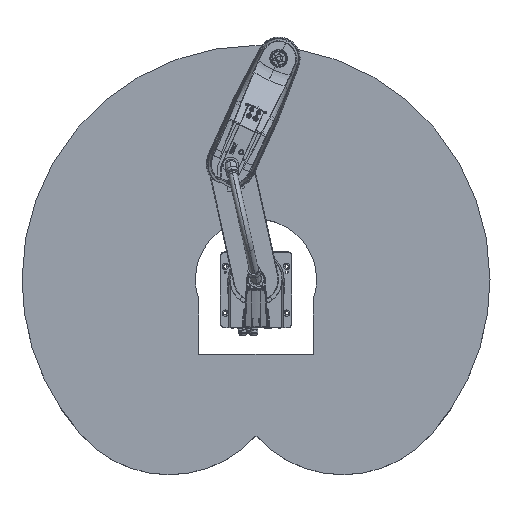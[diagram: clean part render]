
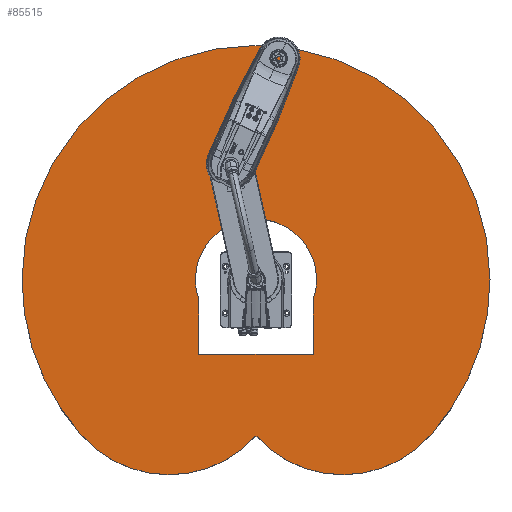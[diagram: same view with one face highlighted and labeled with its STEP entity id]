
A CAD part, top view. The second image highlights one B-rep face of the part: STEP entity #85515.
In plain terms, the highlighted planar face has unit normal (0, 0, 1).
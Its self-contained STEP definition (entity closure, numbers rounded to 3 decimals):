
#2756 = CIRCLE ( 'NONE', #99289, 400. ) ;
#5521 = CARTESIAN_POINT ( 'NONE',  ( 196., -66.752, 208. ) ) ;
#5947 = EDGE_CURVE ( 'NONE', #129084, #13905, #134482, .T. ) ;
#7363 = CARTESIAN_POINT ( 'NONE',  ( 0., 0., 208. ) ) ;
#9161 = EDGE_CURVE ( 'NONE', #82556, #37012, #138296, .T. ) ;
#10996 = AXIS2_PLACEMENT_3D ( 'NONE', #17758, #71777, #103492 ) ;
#13905 = VERTEX_POINT ( 'NONE', #52740 ) ;
#14258 = CARTESIAN_POINT ( 'NONE',  ( -297.258, -267.652, 208. ) ) ;
#16286 = CARTESIAN_POINT ( 'NONE',  ( -196., -255., 208. ) ) ;
#17589 = FACE_OUTER_BOUND ( 'NONE', #72115, .T. ) ;
#17758 = CARTESIAN_POINT ( 'NONE',  ( 0., 0., 208. ) ) ;
#21847 = CIRCLE ( 'NONE', #70116, 800. ) ;
#21938 = EDGE_CURVE ( 'NONE', #39202, #131063, #97030, .T. ) ;
#22844 = LINE ( 'NONE', #120895, #99686 ) ;
#25141 = DIRECTION ( 'NONE',  ( 1., 0., 0. ) ) ;
#25582 = ORIENTED_EDGE ( 'NONE', *, *, #141544, .F. ) ;
#27816 = AXIS2_PLACEMENT_3D ( 'NONE', #112306, #101483, #25141 ) ;
#28503 = ORIENTED_EDGE ( 'NONE', *, *, #9161, .F. ) ;
#29812 = CARTESIAN_POINT ( 'NONE',  ( 0., -267.652, 208. ) ) ;
#30270 = ORIENTED_EDGE ( 'NONE', *, *, #63446, .F. ) ;
#33651 = DIRECTION ( 'NONE',  ( 0., -1., 0. ) ) ;
#34341 = DIRECTION ( 'NONE',  ( 0., 0., 1. ) ) ;
#35224 = AXIS2_PLACEMENT_3D ( 'NONE', #112984, #134621, #66881 ) ;
#35648 = AXIS2_PLACEMENT_3D ( 'NONE', #50067, #114972, #92623 ) ;
#37012 = VERTEX_POINT ( 'NONE', #45276 ) ;
#37042 = EDGE_CURVE ( 'NONE', #116088, #85059, #122700, .T. ) ;
#37374 = CARTESIAN_POINT ( 'NONE',  ( -196., -66.752, 208. ) ) ;
#39202 = VERTEX_POINT ( 'NONE', #111655 ) ;
#39469 = ORIENTED_EDGE ( 'NONE', *, *, #58904, .T. ) ;
#40185 = ORIENTED_EDGE ( 'NONE', *, *, #5947, .T. ) ;
#40599 = DIRECTION ( 'NONE',  ( 0., -1., 0. ) ) ;
#45276 = CARTESIAN_POINT ( 'NONE',  ( 196., -255., 208. ) ) ;
#47587 = EDGE_CURVE ( 'NONE', #133667, #129084, #2756, .T. ) ;
#47971 = AXIS2_PLACEMENT_3D ( 'NONE', #29812, #138605, #40599 ) ;
#48773 = DIRECTION ( 'NONE',  ( 0., 0., 1. ) ) ;
#50067 = CARTESIAN_POINT ( 'NONE',  ( 297.258, -267.652, 208. ) ) ;
#52740 = CARTESIAN_POINT ( 'NONE',  ( 594.516, -535.304, 208. ) ) ;
#58904 = EDGE_CURVE ( 'NONE', #85059, #133667, #116796, .T. ) ;
#60673 = AXIS2_PLACEMENT_3D ( 'NONE', #7363, #75719, #118288 ) ;
#61475 = PLANE ( 'NONE',  #47971 ) ;
#62227 = CIRCLE ( 'NONE', #27816, 207.055 ) ;
#63446 = EDGE_CURVE ( 'NONE', #102515, #39202, #62227, .T. ) ;
#63637 = ORIENTED_EDGE ( 'NONE', *, *, #130092, .F. ) ;
#66881 = DIRECTION ( 'NONE',  ( 1., 0., 0. ) ) ;
#68717 = EDGE_CURVE ( 'NONE', #37012, #73911, #70298, .T. ) ;
#70116 = AXIS2_PLACEMENT_3D ( 'NONE', #111420, #34341, #113538 ) ;
#70298 = LINE ( 'NONE', #5521, #138069 ) ;
#71777 = DIRECTION ( 'NONE',  ( 0., 0., 1. ) ) ;
#72115 = EDGE_LOOP ( 'NONE', ( #40185, #126713, #79116, #39469, #74515 ) ) ;
#73911 = VERTEX_POINT ( 'NONE', #123011 ) ;
#74515 = ORIENTED_EDGE ( 'NONE', *, *, #47587, .T. ) ;
#75719 = DIRECTION ( 'NONE',  ( 0., 0., 1. ) ) ;
#77181 = DIRECTION ( 'NONE',  ( 1., 0., 0. ) ) ;
#79116 = ORIENTED_EDGE ( 'NONE', *, *, #37042, .T. ) ;
#82556 = VERTEX_POINT ( 'NONE', #16286 ) ;
#85059 = VERTEX_POINT ( 'NONE', #110064 ) ;
#85515 = ADVANCED_FACE ( 'NONE', ( #116304, #17589 ), #61475, .F. ) ;
#87660 = EDGE_LOOP ( 'NONE', ( #25582, #114083, #28503, #63637, #122733, #30270 ) ) ;
#87886 = CARTESIAN_POINT ( 'NONE',  ( 0., 0., 208. ) ) ;
#92623 = DIRECTION ( 'NONE',  ( -1., 0., 0. ) ) ;
#93354 = DIRECTION ( 'NONE',  ( 0., 1., 0. ) ) ;
#94505 = EDGE_CURVE ( 'NONE', #13905, #116088, #21847, .T. ) ;
#97030 = CIRCLE ( 'NONE', #131530, 207.055 ) ;
#99289 = AXIS2_PLACEMENT_3D ( 'NONE', #14258, #48773, #77181 ) ;
#99686 = VECTOR ( 'NONE', #33651, 1000. ) ;
#101483 = DIRECTION ( 'NONE',  ( 0., 0., 1. ) ) ;
#102515 = VERTEX_POINT ( 'NONE', #105854 ) ;
#103001 = CARTESIAN_POINT ( 'NONE',  ( -196., -255., 208. ) ) ;
#103492 = DIRECTION ( 'NONE',  ( 1., 0., 0. ) ) ;
#105854 = CARTESIAN_POINT ( 'NONE',  ( 207.055, 0., 208. ) ) ;
#106682 = CIRCLE ( 'NONE', #60673, 207.055 ) ;
#110064 = CARTESIAN_POINT ( 'NONE',  ( -800., 0., 208. ) ) ;
#110200 = DIRECTION ( 'NONE',  ( 1., 0., 0. ) ) ;
#111420 = CARTESIAN_POINT ( 'NONE',  ( 0., 0., 208. ) ) ;
#111655 = CARTESIAN_POINT ( 'NONE',  ( -207.055, 0., 208. ) ) ;
#112306 = CARTESIAN_POINT ( 'NONE',  ( 0., 0., 208. ) ) ;
#112984 = CARTESIAN_POINT ( 'NONE',  ( 0., 0., 208. ) ) ;
#113538 = DIRECTION ( 'NONE',  ( 1., 0., 0. ) ) ;
#114083 = ORIENTED_EDGE ( 'NONE', *, *, #68717, .F. ) ;
#114972 = DIRECTION ( 'NONE',  ( 0., 0., 1. ) ) ;
#115451 = CARTESIAN_POINT ( 'NONE',  ( 800., 0., 208. ) ) ;
#116088 = VERTEX_POINT ( 'NONE', #115451 ) ;
#116304 = FACE_BOUND ( 'NONE', #87660, .T. ) ;
#116307 = CARTESIAN_POINT ( 'NONE',  ( -594.516, -535.304, 208. ) ) ;
#116796 = CIRCLE ( 'NONE', #10996, 800. ) ;
#118288 = DIRECTION ( 'NONE',  ( 1., 0., 0. ) ) ;
#120895 = CARTESIAN_POINT ( 'NONE',  ( -196., -66.752, 208. ) ) ;
#122700 = CIRCLE ( 'NONE', #35224, 800. ) ;
#122733 = ORIENTED_EDGE ( 'NONE', *, *, #21938, .F. ) ;
#123011 = CARTESIAN_POINT ( 'NONE',  ( 196., -66.752, 208. ) ) ;
#126713 = ORIENTED_EDGE ( 'NONE', *, *, #94505, .T. ) ;
#129084 = VERTEX_POINT ( 'NONE', #135220 ) ;
#130092 = EDGE_CURVE ( 'NONE', #131063, #82556, #22844, .T. ) ;
#131063 = VERTEX_POINT ( 'NONE', #37374 ) ;
#131530 = AXIS2_PLACEMENT_3D ( 'NONE', #87886, #131847, #110200 ) ;
#131847 = DIRECTION ( 'NONE',  ( 0., 0., 1. ) ) ;
#133667 = VERTEX_POINT ( 'NONE', #116307 ) ;
#134482 = CIRCLE ( 'NONE', #35648, 400. ) ;
#134621 = DIRECTION ( 'NONE',  ( 0., 0., 1. ) ) ;
#135220 = CARTESIAN_POINT ( 'NONE',  ( 0., -535.304, 208. ) ) ;
#137583 = DIRECTION ( 'NONE',  ( 1., 0., 0. ) ) ;
#138069 = VECTOR ( 'NONE', #93354, 1000. ) ;
#138296 = LINE ( 'NONE', #103001, #138948 ) ;
#138605 = DIRECTION ( 'NONE',  ( 0., 0., -1. ) ) ;
#138948 = VECTOR ( 'NONE', #137583, 1000. ) ;
#141544 = EDGE_CURVE ( 'NONE', #73911, #102515, #106682, .T. ) ;
